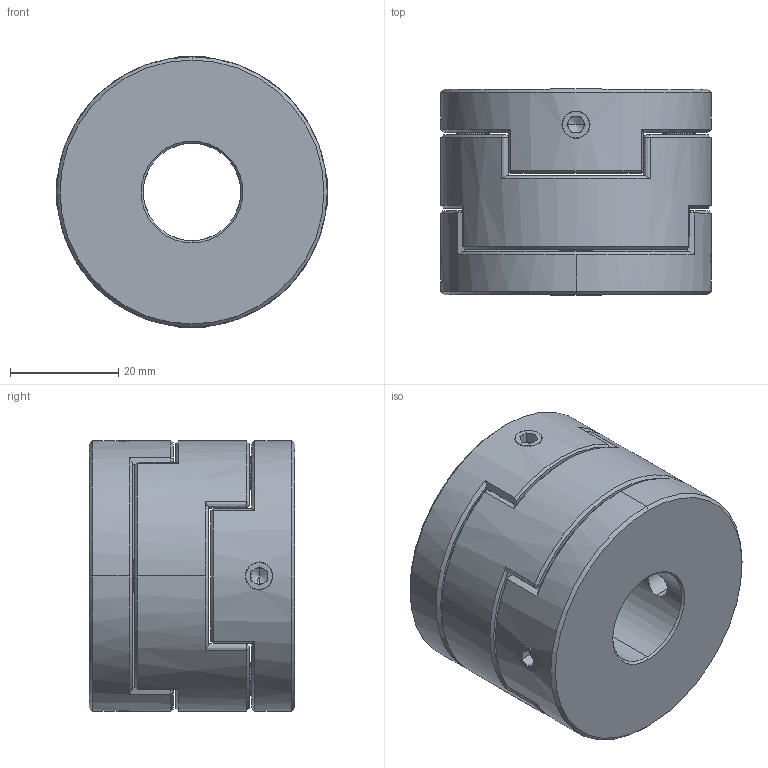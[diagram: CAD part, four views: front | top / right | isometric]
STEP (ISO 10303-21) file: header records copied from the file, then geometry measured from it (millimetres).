
FILE_DESCRIPTION (( 'STEP AP203' ), '1' );
FILE_NAME ('LZ-D-D50L38-18-18.STEP', '2021-10-30T05:49:16', ( '' ), ( '' ), 'SwSTEP 2.0', 'SolidWorks 2018', '' );
FILE_SCHEMA (( 'CONFIG_CONTROL_DESIGN' ));
Length unit declared in the file: millimetre
Products named in the file (1): LZ-D-D50L38-18-18
Bounding box: 50 x 38 x 50 mm (x, y, z)
Volume: 61184.4 mm3; surface area: 18422.1 mm2
Topology: 1 solids, 1 shells, 222 faces, 546 edges, 326 vertices
Faces by surface type: plane 88, bspline 54, cone 54, cylinder 26
Entity records: 7522 total; most frequent: CARTESIAN_POINT 2760, ORIENTED_EDGE 1076, DIRECTION 798, EDGE_CURVE 538, VERTEX_POINT 326, AXIS2_PLACEMENT_3D 289, EDGE_LOOP 248, FACE_OUTER_BOUND 222
